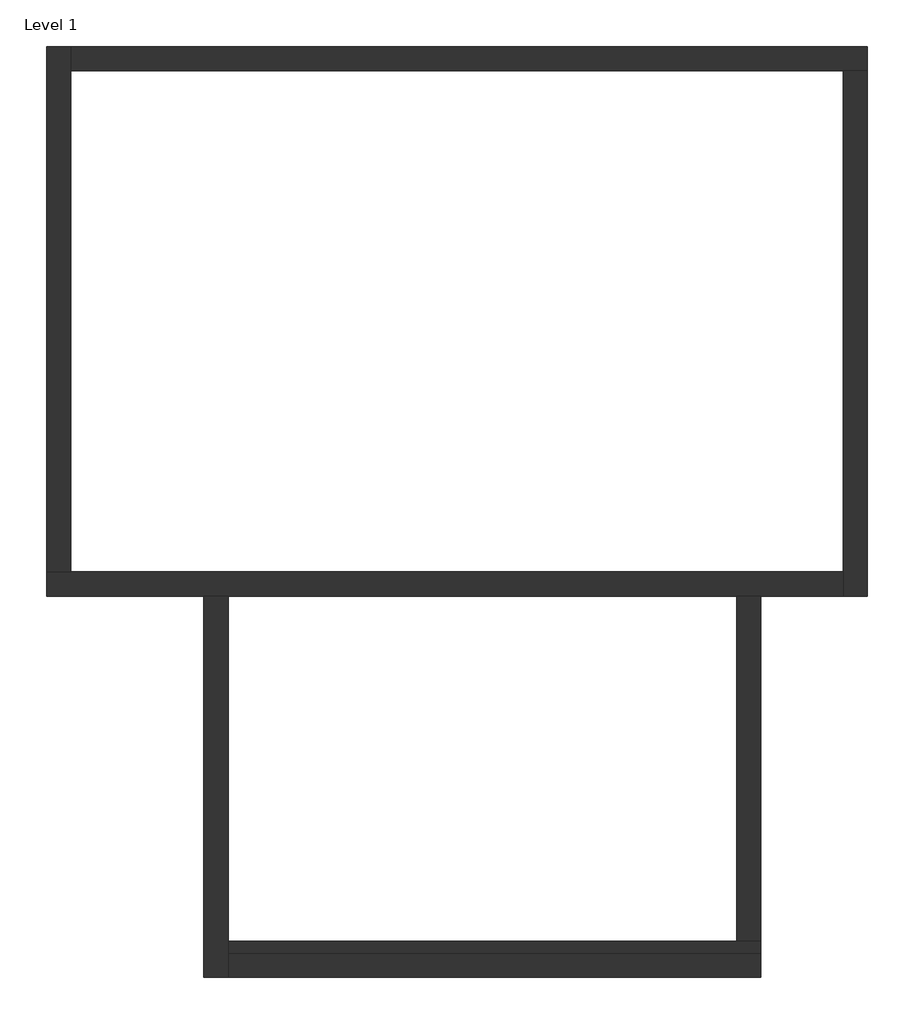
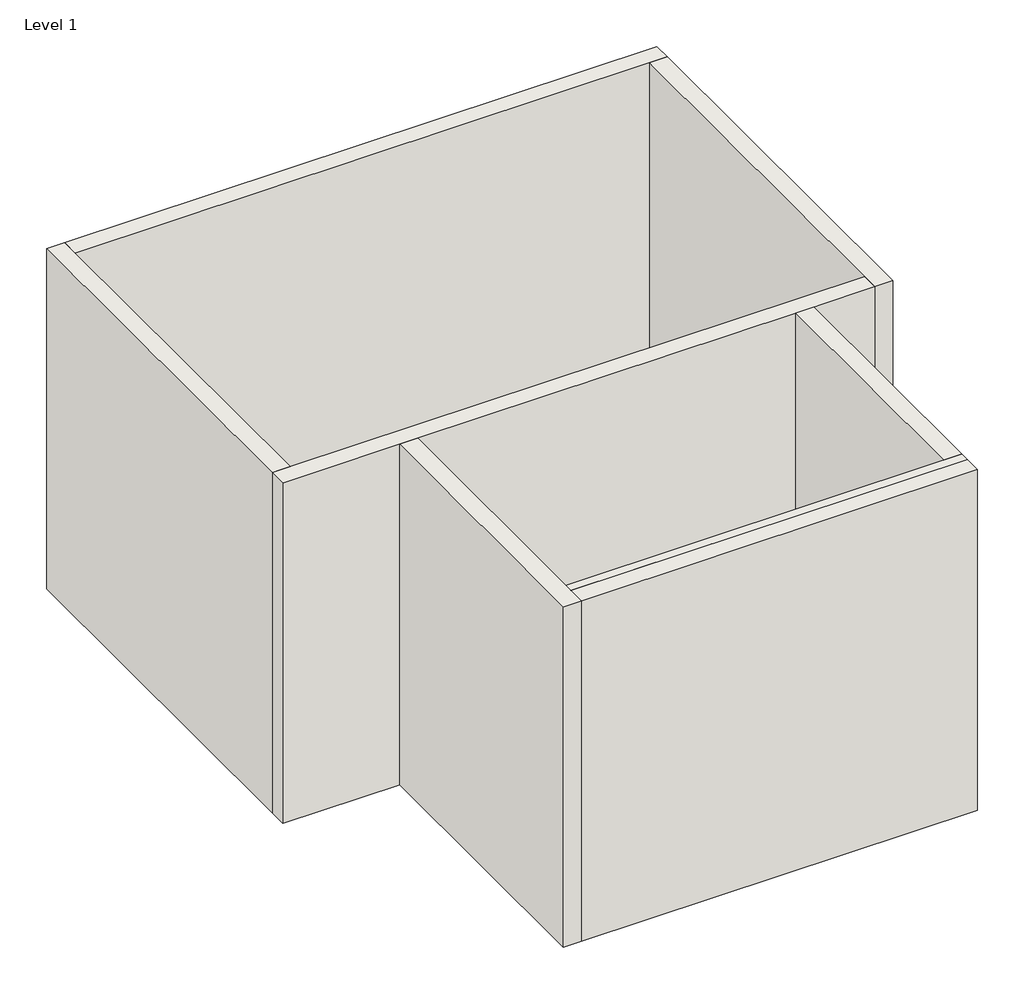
# One storey: 7 walls.
"""IFC4 building model written with IfcOpenShell, lengths in millimetres."""

from ifc_helpers import new_model, si_unit, origin, origin_with_axes, place, context, project, spatial, polyline, outline, extrude, faceted_brep, element, save

model = new_model("IFC4")

# Units and contexts
model_context = context("Model", 3, world=origin())
ifc_project = project(units=[si_unit("LENGTHUNIT", "METRE", prefix="MILLI")], contexts=[model_context])

# Site, building, storey
site = spatial("IfcSite", under=ifc_project)
building = spatial("IfcBuilding", under=site)
storey = spatial("IfcBuildingStorey", under=building, Name="Level 1", Elevation=0.0)

# Walls
placement = place(None, origin())
element("IfcWall", 1, ObjectType="Wall 1", at=placement, inside=storey, context=model_context, shape_type="Brep", body=[
    faceted_brep([(693.1242461, 459.4089264, 0.0), (1993.1242461, 459.4089264, 0.0), (2193.1242461, 459.4089264, 0.0), (6393.1242461, 459.4089264, 0.0), (6593.1242461, 459.4089264, 0.0), (7273.1242461, 459.4089264, 0.0), (7273.1242461, 459.4089264, 4000.0), (6593.1242461, 459.4089264, 4000.0), (6393.1242461, 459.4089264, 4000.0), (2193.1242461, 459.4089264, 4000.0), (1993.1242461, 459.4089264, 4000.0), (693.1242461, 459.4089264, 4000.0), (693.1242461, 659.4089264, 0.0), (693.1242461, 659.4089264, 4000.0), (893.1242461, 659.4089264, 4000.0), (7273.1242461, 659.4089264, 4000.0), (7273.1242461, 659.4089264, 0.0), (893.1242461, 659.4089264, 0.0)], [[[0, 1, 2, 3, 4, 5, 6, 7, 8, 9, 10, 11]], [[12, 13, 14, 15, 16, 17]], [[5, 4, 3, 2, 1, 0, 12, 17, 16]], [[11, 10, 9, 8, 7, 6, 15, 14, 13]], [[0, 11, 13, 12]], [[6, 5, 16, 15]]]),
])
element("IfcWall", 2, ObjectType="Wall 1", at=placement, inside=storey, context=model_context, shape_type="Brep", body=[
    faceted_brep([(693.1242461, 4999.4089264, 0.0), (693.1242461, 659.4089264, 0.0), (693.1242461, 659.4089264, 4000.0), (693.1242461, 4999.4089264, 4000.0), (893.1242461, 4999.4089264, 0.0), (893.1242461, 4999.4089264, 4000.0), (893.1242461, 4799.4089264, 4000.0), (893.1242461, 659.4089264, 4000.0), (893.1242461, 659.4089264, 0.0), (893.1242461, 4799.4089264, 0.0)], [[[0, 1, 2, 3]], [[4, 5, 6, 7, 8, 9]], [[1, 0, 4, 9, 8]], [[3, 2, 7, 6, 5]], [[0, 3, 5, 4]], [[2, 1, 8, 7]]]),
])
element("IfcWall", 3, ObjectType="Wall 1", at=placement, inside=storey, context=model_context, shape_type="Brep", body=[
    faceted_brep([(7473.1242461, 4999.4089264, 0.0), (893.1242461, 4999.4089264, 0.0), (893.1242461, 4999.4089264, 4000.0), (7473.1242461, 4999.4089264, 4000.0), (7473.1242461, 4799.4089264, 0.0), (7473.1242461, 4799.4089264, 4000.0), (7273.1242461, 4799.4089264, 4000.0), (893.1242461, 4799.4089264, 4000.0), (893.1242461, 4799.4089264, 0.0), (7273.1242461, 4799.4089264, 0.0)], [[[0, 1, 2, 3]], [[4, 5, 6, 7, 8, 9]], [[1, 0, 4, 9, 8]], [[3, 2, 7, 6, 5]], [[0, 3, 5, 4]], [[2, 1, 8, 7]]]),
])
element("IfcWall", 4, ObjectType="Wall 1", at=placement, inside=storey, context=model_context, shape_type="Brep", body=[
    faceted_brep([(7473.1242461, 459.4089264, 0.0), (7473.1242461, 4799.4089264, 0.0), (7473.1242461, 4799.4089264, 4000.0), (7473.1242461, 459.4089264, 4000.0), (7273.1242461, 459.4089264, 0.0), (7273.1242461, 459.4089264, 4000.0), (7273.1242461, 659.4089264, 4000.0), (7273.1242461, 4799.4089264, 4000.0), (7273.1242461, 4799.4089264, 0.0), (7273.1242461, 659.4089264, 0.0)], [[[0, 1, 2, 3]], [[4, 5, 6, 7, 8, 9]], [[1, 0, 4, 9, 8]], [[3, 2, 7, 6, 5]], [[0, 3, 5, 4]], [[2, 1, 8, 7]]]),
])
element("IfcWall", 5, ObjectType="Wall 1", at=placement, inside=storey, context=model_context, shape_type="Brep", body=[
    faceted_brep([(1993.1242461, 459.4089264, 0.0), (1993.1242461, -2690.5910736, 0.0), (1993.1242461, -2690.5910736, 4000.0), (1993.1242461, 459.4089264, 4000.0), (2193.1242461, 459.4089264, 0.0), (2193.1242461, 459.4089264, 4000.0), (2193.1242461, -2390.5910736, 4000.0), (2193.1242461, -2690.5910736, 4000.0), (2193.1242461, -2690.5910736, 0.0), (2193.1242461, -2390.5910736, 0.0)], [[[0, 1, 2, 3]], [[4, 5, 6, 7, 8, 9]], [[1, 0, 4, 9, 8]], [[3, 2, 7, 6, 5]], [[0, 3, 5, 4]], [[2, 1, 8, 7]]]),
])
element("IfcWall", 6, ObjectType="Wall 1", at=placement, inside=storey, context=model_context, shape_type="SweptSolid", body=[
    extrude(outline(polyline([(6593.1242461, 459.4089264), (6593.1242461, -2390.5910736), (6393.1242461, -2390.5910736), (6393.1242461, 459.4089264), (6593.1242461, 459.4089264)])), origin_with_axes(), (0.0, 0.0, 1.0), 4000.0),
])
element("IfcWall", 7, ObjectType="Wall 2", at=placement, inside=storey, context=model_context, shape_type="SolidModel", body=[
    faceted_brep([(6393.1242461, -2390.5910736, 0.0), (6593.1242461, -2390.5910736, 0.0), (6593.1242461, -2490.5910736, 0.0), (2193.1242461, -2490.5910736, 0.0), (2193.1242461, -2390.5910736, 0.0), (6393.1242461, -2390.5910736, 4000.0), (2193.1242461, -2390.5910736, 4000.0), (2193.1242461, -2490.5910736, 4000.0), (6593.1242461, -2490.5910736, 4000.0), (6593.1242461, -2390.5910736, 4000.0)], [[[0, 1, 2, 3, 4]], [[5, 6, 7, 8, 9]], [[6, 4, 3, 7]], [[1, 9, 8, 2]], [[3, 2, 8, 7]], [[4, 6, 5, 9, 1, 0]]]),
    extrude(outline(polyline([(6593.1242461, -2690.5910736), (2193.1242461, -2690.5910736), (2193.1242461, -2490.5910736), (6593.1242461, -2490.5910736), (6593.1242461, -2690.5910736)])), origin_with_axes(), (0.0, 0.0, 1.0), 4000.0),
])

save(model, "model.ifc")
